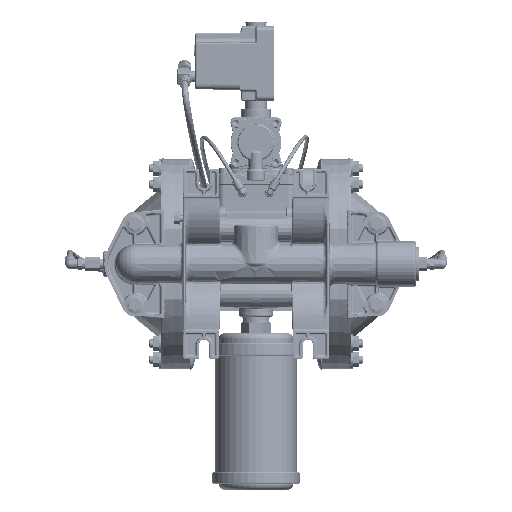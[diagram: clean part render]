
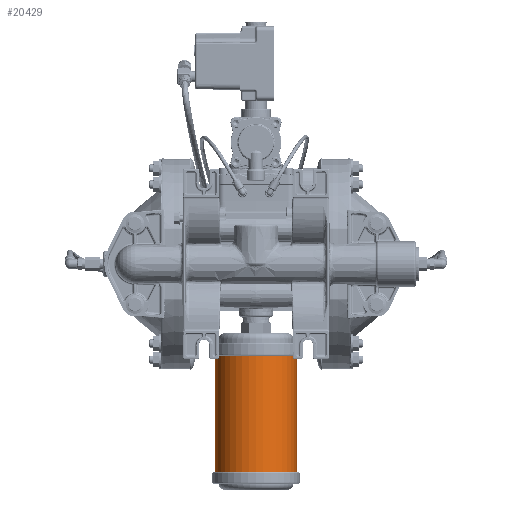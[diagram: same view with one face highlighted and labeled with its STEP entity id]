
A CAD part, front view. The second image highlights one B-rep face of the part: STEP entity #20429.
In plain terms, the highlighted cylindrical face has radius 39.688 mm (diameter 79.375 mm), a partial arc.
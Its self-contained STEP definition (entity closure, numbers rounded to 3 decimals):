
#11043=FACE_OUTER_BOUND('',#33272,.T.);
#20429=ADVANCED_FACE('',(#11043),#27972,.T.);
#27972=CYLINDRICAL_SURFACE('',#160344,39.688);
#33272=EDGE_LOOP('',(#78742,#78743,#78744,#78745));
#42416=LINE('',#289863,#50671);
#42417=LINE('',#289867,#50672);
#50671=VECTOR('',#183280,1.);
#50672=VECTOR('',#183283,1.);
#59773=CIRCLE('',#160341,39.688);
#59774=CIRCLE('',#160343,39.688);
#78742=ORIENTED_EDGE('',*,*,#133384,.F.);
#78743=ORIENTED_EDGE('',*,*,#133385,.F.);
#78744=ORIENTED_EDGE('',*,*,#133386,.T.);
#78745=ORIENTED_EDGE('',*,*,#133383,.T.);
#116581=VERTEX_POINT('',#289859);
#116582=VERTEX_POINT('',#289860);
#116583=VERTEX_POINT('',#289864);
#116584=VERTEX_POINT('',#289866);
#133383=EDGE_CURVE('',#116582,#116581,#59773,.T.);
#133384=EDGE_CURVE('',#116583,#116581,#42416,.T.);
#133385=EDGE_CURVE('',#116584,#116583,#59774,.T.);
#133386=EDGE_CURVE('',#116584,#116582,#42417,.T.);
#160341=AXIS2_PLACEMENT_3D('',#289861,#183276,#183277);
#160343=AXIS2_PLACEMENT_3D('',#289865,#183281,#183282);
#160344=AXIS2_PLACEMENT_3D('',#289868,#183284,#183285);
#183276=DIRECTION('',(0.,0.,1.));
#183277=DIRECTION('',(-1.,0.,0.));
#183280=DIRECTION('',(0.,0.,-1.));
#183281=DIRECTION('',(0.,0.,1.));
#183282=DIRECTION('',(-1.,0.,0.));
#183283=DIRECTION('',(0.,0.,-1.));
#183284=DIRECTION('',(0.,0.,-1.));
#183285=DIRECTION('',(1.,0.,0.));
#289859=CARTESIAN_POINT('',(39.688,-32.537,-211.925));
#289860=CARTESIAN_POINT('',(-39.688,-32.537,-211.925));
#289861=CARTESIAN_POINT('',(0.,-32.537,-211.925));
#289863=CARTESIAN_POINT('',(39.688,-32.537,-211.925));
#289864=CARTESIAN_POINT('',(39.688,-32.537,-97.625));
#289865=CARTESIAN_POINT('',(0.,-32.537,-97.625));
#289866=CARTESIAN_POINT('',(-39.688,-32.537,-97.625));
#289867=CARTESIAN_POINT('',(-39.688,-32.537,-211.925));
#289868=CARTESIAN_POINT('',(0.,-32.537,-211.925));
